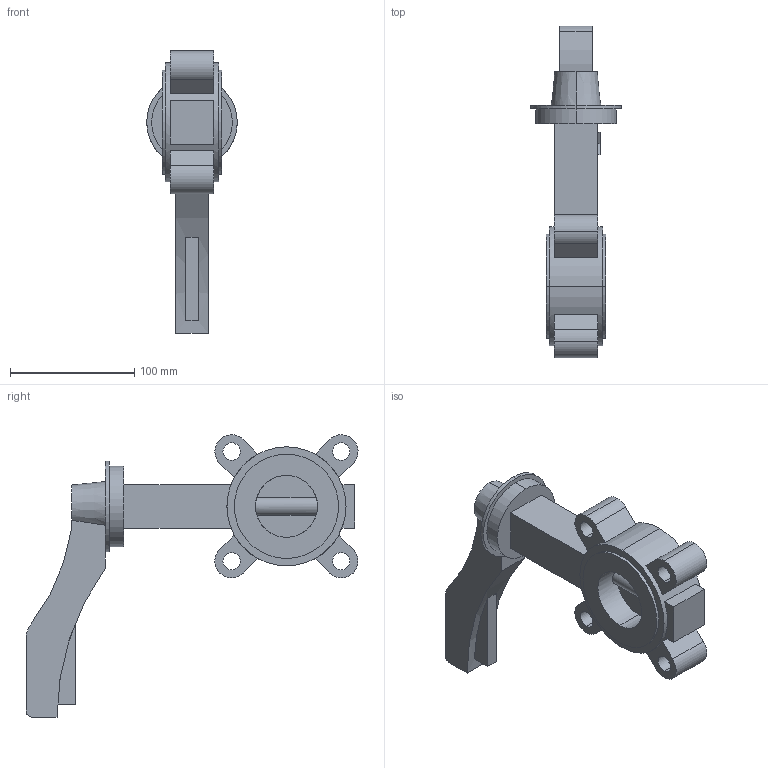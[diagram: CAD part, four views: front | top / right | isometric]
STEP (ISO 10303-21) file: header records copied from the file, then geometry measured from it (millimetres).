
FILE_DESCRIPTION (( 'STEP AP214' ), '1' );
FILE_NAME ('E124_050.STEP', '2021-05-28T12:53:16', ( '' ), ( '' ), 'SwSTEP 2.0', 'SolidWorks 2020', '' );
FILE_SCHEMA (( 'AUTOMOTIVE_DESIGN' ));
Length unit declared in the file: millimetre
Products named in the file (1): E124_050
Bounding box: 73 x 267.67 x 227.69 mm (x, y, z)
Volume: 658577.6 mm3; surface area: 96495.9 mm2
Topology: 1 solids, 1 shells, 97 faces, 241 edges, 160 vertices
Faces by surface type: plane 61, cylinder 34, cone 2
Entity records: 4072 total; most frequent: CARTESIAN_POINT 625, DIRECTION 519, ORIENTED_EDGE 482, EDGE_CURVE 241, AXIS2_PLACEMENT_3D 186, VERTEX_POINT 160, VECTOR 147, LINE 147
